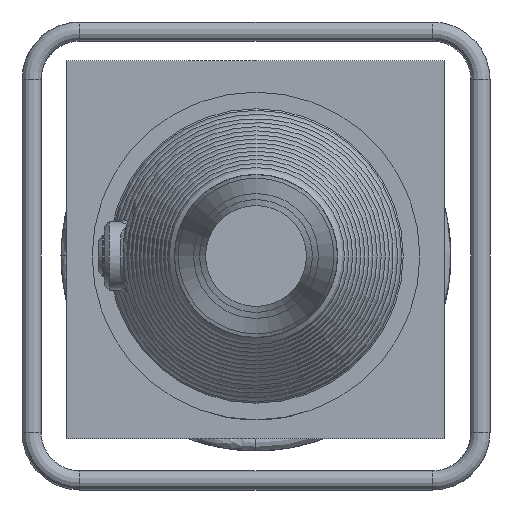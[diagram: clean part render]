
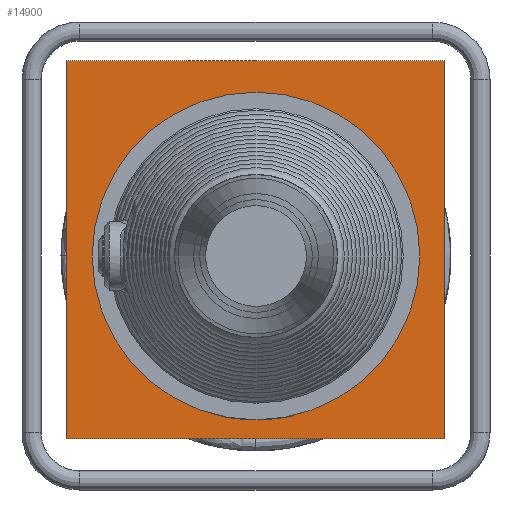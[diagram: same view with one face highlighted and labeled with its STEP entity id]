
A CAD part, left-side view. The second image highlights one B-rep face of the part: STEP entity #14900.
In plain terms, the highlighted planar face has unit normal (-1, 0, 0).
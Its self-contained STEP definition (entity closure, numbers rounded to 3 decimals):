
#1524=PLANE('',#15691);
#2427=LINE('',#38079,#3337);
#2431=LINE('',#38087,#3341);
#2435=LINE('',#38094,#3345);
#2438=LINE('',#38099,#3348);
#3337=VECTOR('',#18113,315.);
#3341=VECTOR('',#18119,315.);
#3345=VECTOR('',#18125,315.);
#3348=VECTOR('',#18130,315.);
#3577=FACE_BOUND('',#5405,.T.);
#4412=FACE_OUTER_BOUND('',#5404,.T.);
#5404=EDGE_LOOP('',(#13517,#13518,#13519,#13520));
#5405=EDGE_LOOP('',(#13521));
#5863=CIRCLE('',#15637,136.5);
#7292=VERTEX_POINT('',#34820);
#7310=VERTEX_POINT('',#38077);
#7311=VERTEX_POINT('',#38078);
#7314=VERTEX_POINT('',#38086);
#7316=VERTEX_POINT('',#38093);
#9382=EDGE_CURVE('',#7292,#7292,#5863,.T.);
#9402=EDGE_CURVE('',#7310,#7311,#2427,.T.);
#9406=EDGE_CURVE('',#7311,#7314,#2431,.T.);
#9410=EDGE_CURVE('',#7314,#7316,#2435,.T.);
#9413=EDGE_CURVE('',#7316,#7310,#2438,.T.);
#13517=ORIENTED_EDGE('',*,*,#9413,.T.);
#13518=ORIENTED_EDGE('',*,*,#9402,.T.);
#13519=ORIENTED_EDGE('',*,*,#9406,.T.);
#13520=ORIENTED_EDGE('',*,*,#9410,.T.);
#13521=ORIENTED_EDGE('',*,*,#9382,.T.);
#14900=ADVANCED_FACE('',(#4412,#3577),#1524,.T.);
#15637=AXIS2_PLACEMENT_3D('',#34821,#18011,#18012);
#15691=AXIS2_PLACEMENT_3D('',#38101,#18132,#18133);
#18011=DIRECTION('center_axis',(1.,0.,0.));
#18012=DIRECTION('ref_axis',(0.,1.,0.));
#18113=DIRECTION('',(0.,0.,-1.));
#18119=DIRECTION('',(0.,-1.,0.));
#18125=DIRECTION('',(0.,0.,1.));
#18130=DIRECTION('',(0.,1.,0.));
#18132=DIRECTION('center_axis',(-1.,0.,0.));
#18133=DIRECTION('ref_axis',(0.,0.,-1.));
#34820=CARTESIAN_POINT('',(-112.151,136.5,0.));
#34821=CARTESIAN_POINT('Origin',(-112.151,0.,
0.));
#38077=CARTESIAN_POINT('',(-112.151,157.5,162.753));
#38078=CARTESIAN_POINT('',(-112.151,157.5,-152.247));
#38079=CARTESIAN_POINT('',(-112.151,157.5,162.753));
#38086=CARTESIAN_POINT('',(-112.151,-157.5,-152.247));
#38087=CARTESIAN_POINT('',(-112.151,157.5,-152.247));
#38093=CARTESIAN_POINT('',(-112.151,-157.5,162.753));
#38094=CARTESIAN_POINT('',(-112.151,-157.5,-152.247));
#38099=CARTESIAN_POINT('',(-112.151,-157.5,162.753));
#38101=CARTESIAN_POINT('Origin',(-112.151,0.,
5.253));
